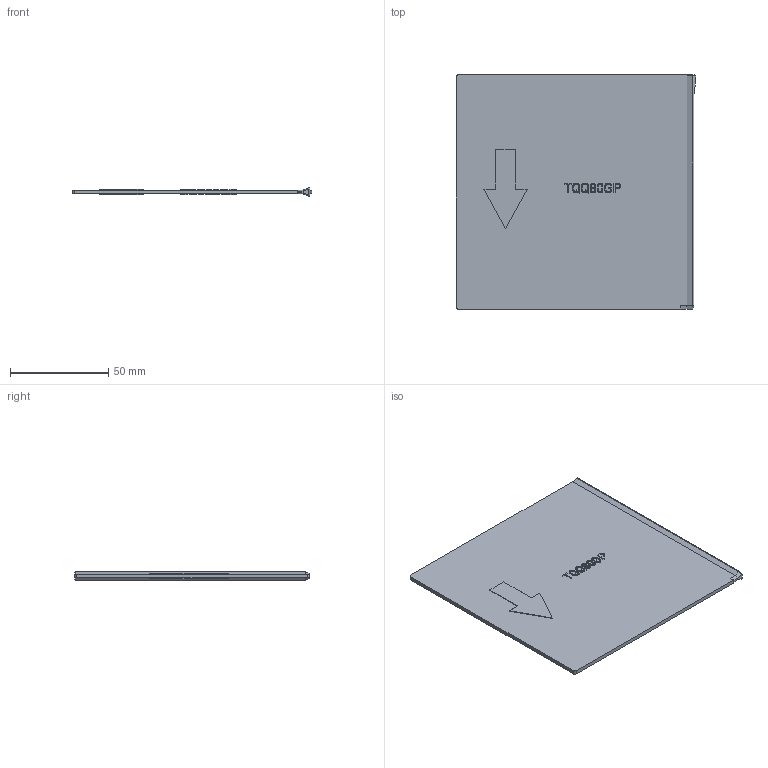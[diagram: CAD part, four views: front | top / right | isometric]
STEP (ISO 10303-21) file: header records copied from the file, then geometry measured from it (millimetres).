
FILE_DESCRIPTION((''),'2;1');
FILE_NAME('U8_INTERPOLE_BARRIER','2018-06-04T',('HHI'),(''),'PRO/ENGINEER BY PARAMETRIC TECHNOLOGY CORPORATION, 2012453','PRO/ENGINEER BY PARAMETRIC TECHNOLOGY CORPORATION, 2012453','');
FILE_SCHEMA(('CONFIG_CONTROL_DESIGN'));
Length unit declared in the file: millimetre
Products named in the file (1): U8_INTERPOLE_BARRIER
Bounding box: 121.65 x 119 x 4.32 mm (x, y, z)
Volume: 29568.2 mm3; surface area: 30162.4 mm2
Topology: 1 solids, 1 shells, 208 faces, 532 edges, 350 vertices
Faces by surface type: extrusion 116, plane 79, cylinder 9, cone 4
Entity records: 7614 total; most frequent: CARTESIAN_POINT 3030, ORIENTED_EDGE 1056, DIRECTION 586, EDGE_CURVE 528, VECTOR 386, B_SPLINE_CURVE_WITH_KNOTS 366, VERTEX_POINT 350, LINE 270
